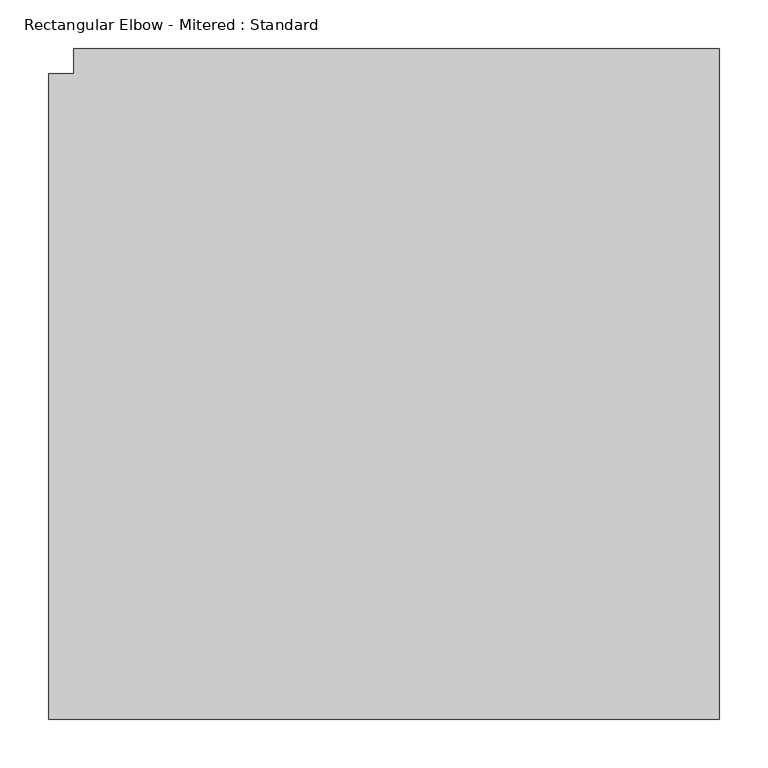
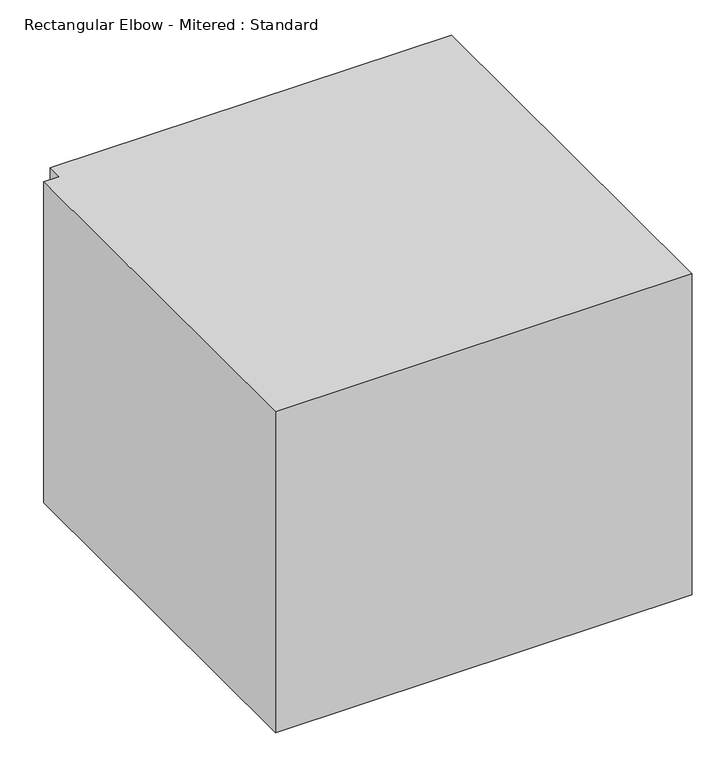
"""IFC4 building model written with IfcOpenShell, lengths in millimetres: duct fitting geometry, Rectangular Elbow - Mitered : Standard."""

from ifc_helpers import new_model, si_unit, frame, origin, place, context, project, spatial, polyline, outline, extrude, source, transform, mapped, element, save


def rectangular_elbow_mitered_standard_c5bcfd69(model_context):
    return source(origin(), model_context, "Body", "SweptSolid", [
        extrude(outline(polyline([(-355.6, -330.2), (-355.6, 330.2), (-330.2, 330.2), (-330.2, 355.6), (330.2, 355.6), (330.2, -330.2), (-355.6, -330.2)])), frame((0.0, 0.0, -279.4), z_axis=(0.0, 0.0, 1.0), x_axis=(1.0, 0.0, 0.0)), (0.0, 0.0, 1.0), 558.8),
    ])


if __name__ == "__main__":
    model = new_model("IFC4")
    model_context = context("Model", 3, world=origin())
    ifc_project = project(units=[si_unit("LENGTHUNIT", "METRE", prefix="MILLI")], contexts=[model_context])
    site = spatial("IfcSite", under=ifc_project)
    building = spatial("IfcBuilding", under=site)
    placement = place(None, origin())
    rectangular_elbow_mitered_standard_shape = rectangular_elbow_mitered_standard_c5bcfd69(model_context)
    element("IfcDuctFitting", 1, ObjectType="Rectangular Elbow - Mitered : Standard", at=placement, inside=building, context=model_context, shape_type="MappedRepresentation", body=[
        mapped(rectangular_elbow_mitered_standard_shape, transform((0.0, 0.0, 0.0), x_axis=(1.0, 0.0, 0.0), y_axis=(0.0, 1.0, 0.0), z_axis=(0.0, 0.0, 1.0))),
    ])
    save(model, "model.ifc")
